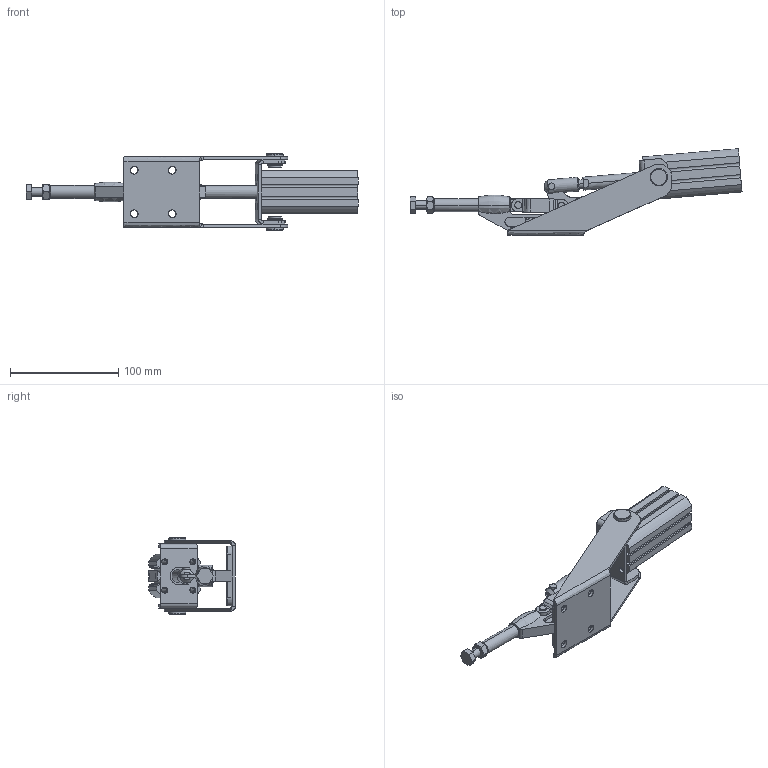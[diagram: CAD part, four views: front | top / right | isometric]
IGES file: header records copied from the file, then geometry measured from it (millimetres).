
Start section: SolidWorks IGES file using analytic representation for surfaces
Global section: file name: C:\Projetos\Grampos\KF-057 P\KF-057 P\KF-057 P.IGS; native system: SolidWorks 2013; preprocessor: SolidWorks 2013; author: Ricardo; date: 140828.153952; units: millimetre
Bounding box: 306.05 x 79.82 x 71 mm (x, y, z)
Surface area: 102328.3 mm2 (no closed solid volume)
Topology: 0 solids, 0 shells, 831 faces, 12299 edges, 12283 vertices
Faces by surface type: bspline 451, revolution 380
